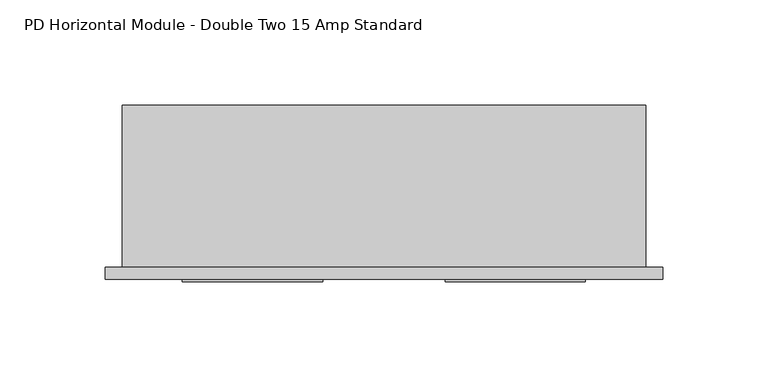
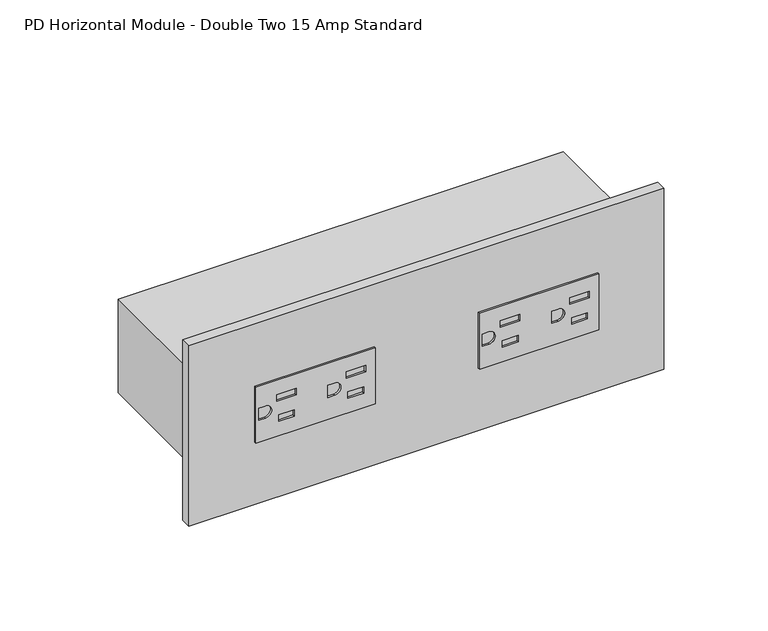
"""IFC4 building model written with IfcOpenShell, lengths in millimetres: proxy geometry, Electrical-Teknion-EPDHD_Horizontal_Power_Data_Double-R2019 : PD Horizontal Module - Double Two 15 Amp Standard."""

from ifc_helpers import new_model, si_unit, point, frame, frame_2d, origin, place, context, project, spatial, polyline, circle_curve, trimmed, segment, composite_curve, outline, extrude, source, transform, mapped, element, save


def pd_horizontal_module_double_two_15_amp_standard_6849602c(model_context):
    return source(origin(), model_context, "Body", "SweptSolid", [
        extrude(outline(polyline([(821.6131229, 220.2976041), (854.6077229, 220.2976041), (854.6077229, 153.6177375), (821.6131229, 153.6177375), (821.6131229, 220.2976041)]), holes=[polyline([(842.2804146, 214.9176149), (842.2804146, 204.0576366), (846.1104069, 204.0576366), (846.1104069, 214.9176149), (842.2804146, 214.9176149)]), polyline([(830.1104389, 213.9176169), (830.1104389, 205.0576346), (833.9404313, 205.0576346), (833.9404313, 213.9176169), (830.1104389, 213.9176169)]), composite_curve([segment(polyline([(841.7426229, 193.8927344), (841.7426229, 197.5249344)]), True, "CONTINUOUS"), segment(trimmed(circle_curve(frame_2d((838.1104229, 197.5249344)), 3.6322), [point((841.7426229, 197.5249344))], [point((834.4782229, 197.5249344))], True, "CARTESIAN"), True, "CONTINUOUS"), segment(polyline([(834.4782229, 197.5249344), (834.4782229, 193.8927344), (841.7426229, 193.8927344)]), True, "CONTINUOUS")], self_intersect=False), polyline([(842.2804146, 176.1776924), (842.2804146, 165.3177141), (846.1104069, 165.3177141), (846.1104069, 176.1776924), (842.2804146, 176.1776924)]), polyline([(830.1104389, 175.1776944), (830.1104389, 166.3177121), (833.9404313, 166.3177121), (833.9404313, 175.1776944), (830.1104389, 175.1776944)]), composite_curve([segment(polyline([(834.4782229, 158.7899344), (834.4782229, 155.1577344), (841.7426229, 155.1577344), (841.7426229, 158.7899344)]), True, "CONTINUOUS"), segment(trimmed(circle_curve(frame_2d((838.1104229, 158.7899344)), 3.6322), [point((841.7426229, 158.7899344))], [point((834.4782229, 158.7899344))], True, "CARTESIAN"), True, "CONTINUOUS")], self_intersect=False)]), frame((0.0, -6.9294746, 0.0), z_axis=(0.0, 1.0, 0.0), x_axis=(0.0, 0.0, 1.0)), (0.0, 0.0, 1.0), 1.0366746),
        extrude(outline(polyline([(821.6104559, 95.2641659), (854.6103899, 95.2641659), (854.6103899, 28.5842992), (821.6104559, 28.5842992), (821.6104559, 95.2641659)]), holes=[polyline([(842.2804146, 89.8841766), (842.2804146, 79.0241983), (846.1104069, 79.0241983), (846.1104069, 89.8841766), (842.2804146, 89.8841766)]), polyline([(830.1104389, 88.8841786), (830.1104389, 80.0241963), (833.9404313, 80.0241963), (833.9404313, 88.8841786), (830.1104389, 88.8841786)]), composite_curve([segment(polyline([(834.4760157, 68.8642187), (841.7404157, 68.8642187), (841.7404157, 72.4964187)]), True, "CONTINUOUS"), segment(trimmed(circle_curve(frame_2d((838.1082157, 72.4964187)), 3.6322), [point((841.7404157, 72.4964187))], [point((834.4760157, 72.4964187))], True, "CARTESIAN"), True, "CONTINUOUS"), segment(polyline([(834.4760157, 72.4964187), (834.4760157, 68.8642187)]), True, "CONTINUOUS")], self_intersect=False), polyline([(842.2804146, 51.1442541), (842.2804146, 40.2842758), (846.1104069, 40.2842758), (846.1104069, 51.1442541), (842.2804146, 51.1442541)]), polyline([(830.1104389, 50.1442561), (830.1104389, 41.2842738), (833.9404313, 41.2842738), (833.9404313, 50.1442561), (830.1104389, 50.1442561)]), composite_curve([segment(polyline([(834.4760157, 30.1242961), (841.7404157, 30.1242961), (841.7404157, 33.7564961)]), True, "CONTINUOUS"), segment(trimmed(circle_curve(frame_2d((838.1082157, 33.7564961)), 3.6322), [point((841.7404157, 33.7564961))], [point((834.4760157, 33.7564961))], True, "CARTESIAN"), True, "CONTINUOUS"), segment(polyline([(834.4760157, 33.7564961), (834.4760157, 30.1242961)]), True, "CONTINUOUS")], self_intersect=False)]), frame((0.0, -6.9294746, 0.0), z_axis=(0.0, 1.0, 0.0), x_axis=(0.0, 0.0, 1.0)), (0.0, 0.0, 1.0), 1.0366746),
        extrude(outline(polyline([(-8.2450977, 0.0), (257.1652913, 0.0), (257.1652913, -5.8928), (-8.2450977, -5.8928), (-8.2450977, 0.0)])), frame((0.0, 0.0, 784.6718508), z_axis=(0.0, 0.0, 1.0), x_axis=(1.0, 0.0, 0.0)), (0.0, 0.0, 1.0), 106.8771443),
        extrude(outline(polyline([(248.92, 0.0), (0.0, 0.0), (0.0, 77.054), (248.92, 77.054), (248.92, 0.0)])), frame((0.0, 0.0, 810.3355229), z_axis=(0.0, 0.0, 1.0), x_axis=(1.0, 0.0, 0.0)), (0.0, 0.0, 1.0), 55.5498),
    ])


if __name__ == "__main__":
    model = new_model("IFC4")
    model_context = context("Model", 3, world=origin())
    ifc_project = project(units=[si_unit("LENGTHUNIT", "METRE", prefix="MILLI")], contexts=[model_context])
    site = spatial("IfcSite", under=ifc_project)
    building = spatial("IfcBuilding", under=site)
    placement = place(None, origin())
    pd_horizontal_module_double_two_15_amp_standard_shape = pd_horizontal_module_double_two_15_amp_standard_6849602c(model_context)
    element("IfcBuildingElementProxy", 1, Name="Electrical-Teknion-EPDHD_Horizontal_Power_Data_Double-R2019 : PD Horizontal Module - Double Two 15 Amp Standard", ObjectType="Electrical-Teknion-EPDHD_Horizontal_Power_Data_Double-R2019 : PD Horizontal Module - Double Two 15 Amp Standard", at=placement, inside=building, context=model_context, shape_type="MappedRepresentation", body=[
        mapped(pd_horizontal_module_double_two_15_amp_standard_shape, transform((0.0, 0.0, 0.0), x_axis=(1.0, 0.0, 0.0), y_axis=(0.0, 1.0, 0.0), z_axis=(0.0, 0.0, 1.0))),
    ])
    save(model, "model.ifc")
